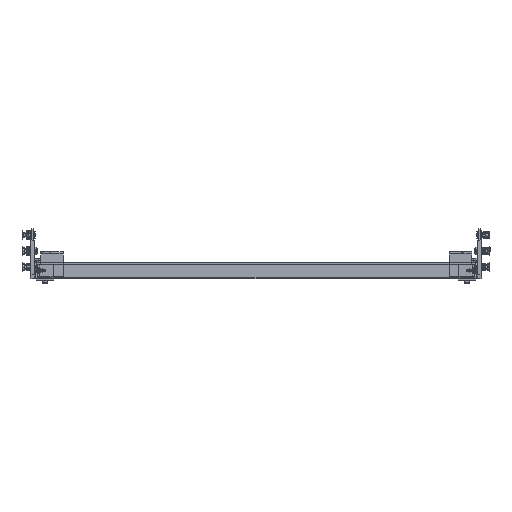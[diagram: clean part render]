
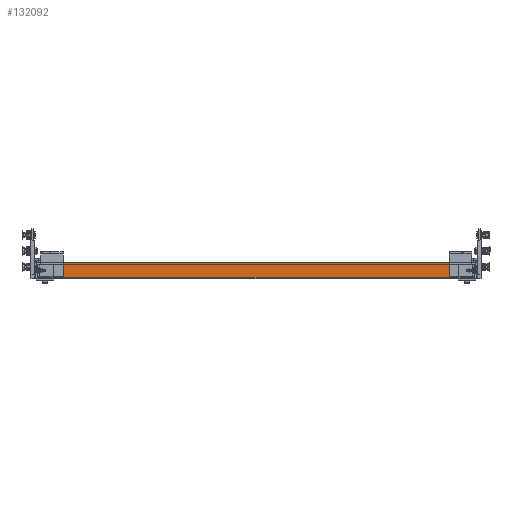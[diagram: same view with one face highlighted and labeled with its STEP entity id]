
A CAD part, front view. The second image highlights one B-rep face of the part: STEP entity #132092.
In plain terms, the highlighted planar face has unit normal (0, -1, 0) as drawn and (-1, 0, 0) by its records, which use the part's own axes.
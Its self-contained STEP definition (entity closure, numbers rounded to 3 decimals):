
#2293 = VERTEX_POINT ( 'NONE', #220117 ) ;
#11675 = VERTEX_POINT ( 'NONE', #262388 ) ;
#21182 = EDGE_CURVE ( 'NONE', #119019, #167112, #90641, .T. ) ;
#26595 = ORIENTED_EDGE ( 'NONE', *, *, #294117, .T. ) ;
#29879 = VECTOR ( 'NONE', #280316, 1000. ) ;
#44387 = VECTOR ( 'NONE', #193145, 1000. ) ;
#51047 = ORIENTED_EDGE ( 'NONE', *, *, #273739, .T. ) ;
#58429 = CARTESIAN_POINT ( 'NONE',  ( -841.51, -314.5, 2.5 ) ) ;
#63672 = VERTEX_POINT ( 'NONE', #113754 ) ;
#73459 = VERTEX_POINT ( 'NONE', #250792 ) ;
#73613 = EDGE_LOOP ( 'NONE', ( #207939, #51047, #303820, #296835, #223315, #26595, #251349, #150422 ) ) ;
#84473 = DIRECTION ( 'NONE',  ( 0., 0., 1. ) ) ;
#85057 = DIRECTION ( 'NONE',  ( 0., 0., -1. ) ) ;
#87202 = CARTESIAN_POINT ( 'NONE',  ( -841.51, 314.5, 25. ) ) ;
#90641 = LINE ( 'NONE', #87202, #44387 ) ;
#92153 = CARTESIAN_POINT ( 'NONE',  ( -841.51, 314.5, 2.5 ) ) ;
#103009 = LINE ( 'NONE', #292267, #136511 ) ;
#105237 = LINE ( 'NONE', #127861, #279328 ) ;
#113754 = CARTESIAN_POINT ( 'NONE',  ( -841.51, -314.5, 21.9 ) ) ;
#117489 = EDGE_CURVE ( 'NONE', #73459, #63672, #289546, .T. ) ;
#119019 = VERTEX_POINT ( 'NONE', #233493 ) ;
#127861 = CARTESIAN_POINT ( 'NONE',  ( -841.51, 314.5, 3.1 ) ) ;
#128284 = CARTESIAN_POINT ( 'NONE',  ( -841.51, 314.5, 3.1 ) ) ;
#132030 = CARTESIAN_POINT ( 'NONE',  ( -841.51, 314.5, 2.5 ) ) ;
#132092 = ADVANCED_FACE ( 'NONE', ( #135440 ), #265796, .F. ) ;
#135440 = FACE_OUTER_BOUND ( 'NONE', #73613, .T. ) ;
#136511 = VECTOR ( 'NONE', #266225, 1000. ) ;
#150422 = ORIENTED_EDGE ( 'NONE', *, *, #272582, .F. ) ;
#163693 = DIRECTION ( 'NONE',  ( 0., 0., 1. ) ) ;
#165951 = EDGE_CURVE ( 'NONE', #11675, #119019, #330148, .T. ) ;
#167112 = VERTEX_POINT ( 'NONE', #312923 ) ;
#167412 = VECTOR ( 'NONE', #84473, 1000. ) ;
#175596 = CARTESIAN_POINT ( 'NONE',  ( -841.51, -314.5, 2.5 ) ) ;
#185858 = DIRECTION ( 'NONE',  ( 1., 0., 0. ) ) ;
#193145 = DIRECTION ( 'NONE',  ( 0., -1., 0. ) ) ;
#201598 = VECTOR ( 'NONE', #163693, 1000. ) ;
#207939 = ORIENTED_EDGE ( 'NONE', *, *, #117489, .T. ) ;
#211840 = EDGE_CURVE ( 'NONE', #268413, #2293, #103009, .T. ) ;
#218504 = VECTOR ( 'NONE', #231192, 1000. ) ;
#220117 = CARTESIAN_POINT ( 'NONE',  ( -841.51, -314.5, 0. ) ) ;
#221351 = CARTESIAN_POINT ( 'NONE',  ( -841.51, 314.5, 2.5 ) ) ;
#223315 = ORIENTED_EDGE ( 'NONE', *, *, #305866, .T. ) ;
#231192 = DIRECTION ( 'NONE',  ( 0., 0., -1. ) ) ;
#233493 = CARTESIAN_POINT ( 'NONE',  ( -841.51, 314.5, 25. ) ) ;
#247036 = LINE ( 'NONE', #295768, #201598 ) ;
#250792 = CARTESIAN_POINT ( 'NONE',  ( -841.51, -314.5, 3.1 ) ) ;
#251349 = ORIENTED_EDGE ( 'NONE', *, *, #211840, .T. ) ;
#258175 = DIRECTION ( 'NONE',  ( 0., 0., -1. ) ) ;
#262388 = CARTESIAN_POINT ( 'NONE',  ( -841.51, 314.5, 21.9 ) ) ;
#265796 = PLANE ( 'NONE',  #317326 ) ;
#266225 = DIRECTION ( 'NONE',  ( 0., -1., 0. ) ) ;
#268413 = VERTEX_POINT ( 'NONE', #285053 ) ;
#272582 = EDGE_CURVE ( 'NONE', #73459, #2293, #305949, .T. ) ;
#273739 = EDGE_CURVE ( 'NONE', #63672, #167112, #247036, .T. ) ;
#278610 = LINE ( 'NONE', #221351, #29879 ) ;
#279328 = VECTOR ( 'NONE', #258175, 1000. ) ;
#279740 = DIRECTION ( 'NONE',  ( 0., 0., 1. ) ) ;
#280316 = DIRECTION ( 'NONE',  ( 0., 0., -1. ) ) ;
#280720 = VERTEX_POINT ( 'NONE', #128284 ) ;
#285053 = CARTESIAN_POINT ( 'NONE',  ( -841.51, 314.5, 0. ) ) ;
#289546 = LINE ( 'NONE', #58429, #167412 ) ;
#292267 = CARTESIAN_POINT ( 'NONE',  ( -841.51, -340.5, 0. ) ) ;
#294117 = EDGE_CURVE ( 'NONE', #280720, #268413, #105237, .T. ) ;
#295768 = CARTESIAN_POINT ( 'NONE',  ( -841.51, -314.5, 21.9 ) ) ;
#296242 = VECTOR ( 'NONE', #279740, 1000. ) ;
#296835 = ORIENTED_EDGE ( 'NONE', *, *, #165951, .F. ) ;
#303820 = ORIENTED_EDGE ( 'NONE', *, *, #21182, .F. ) ;
#305866 = EDGE_CURVE ( 'NONE', #11675, #280720, #278610, .T. ) ;
#305949 = LINE ( 'NONE', #175596, #218504 ) ;
#312923 = CARTESIAN_POINT ( 'NONE',  ( -841.51, -314.5, 25. ) ) ;
#317326 = AXIS2_PLACEMENT_3D ( 'NONE', #132030, #185858, #85057 ) ;
#330148 = LINE ( 'NONE', #92153, #296242 ) ;
